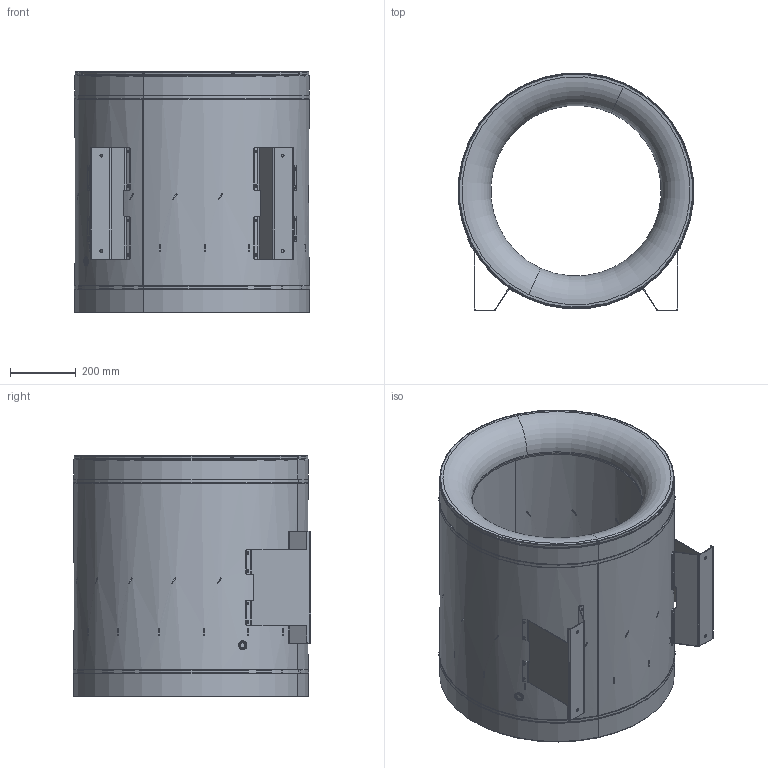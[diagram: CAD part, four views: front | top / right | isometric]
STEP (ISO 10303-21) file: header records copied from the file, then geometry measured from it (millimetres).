
FILE_DESCRIPTION (( 'STEP AP203' ), '1' );
FILE_NAME ('146531-00_EL710D402.STEP', '2018-06-08T07:36:54', ( '' ), ( '' ), 'SwSTEP 2.0', 'SolidWorks 2017', '' );
FILE_SCHEMA (( 'CONFIG_CONTROL_DESIGN' ));
Length unit declared in the file: millimetre
Products named in the file (1): 146531-00_EL710D402
Bounding box: 714.83 x 721.41 x 731.5 mm (x, y, z)
Surface area: 3928824.2 mm2 (no closed solid volume)
Topology: 0 solids, 47 shells, 400 faces, 1378 edges, 940 vertices
Faces by surface type: cylinder 121, plane 108, torus 104, bspline 67
Entity records: 17112 total; most frequent: CARTESIAN_POINT 5920, DIRECTION 2121, ORIENTED_EDGE 2118, EDGE_CURVE 1378, VERTEX_POINT 940, AXIS2_PLACEMENT_3D 881, CIRCLE 547, EDGE_LOOP 545
